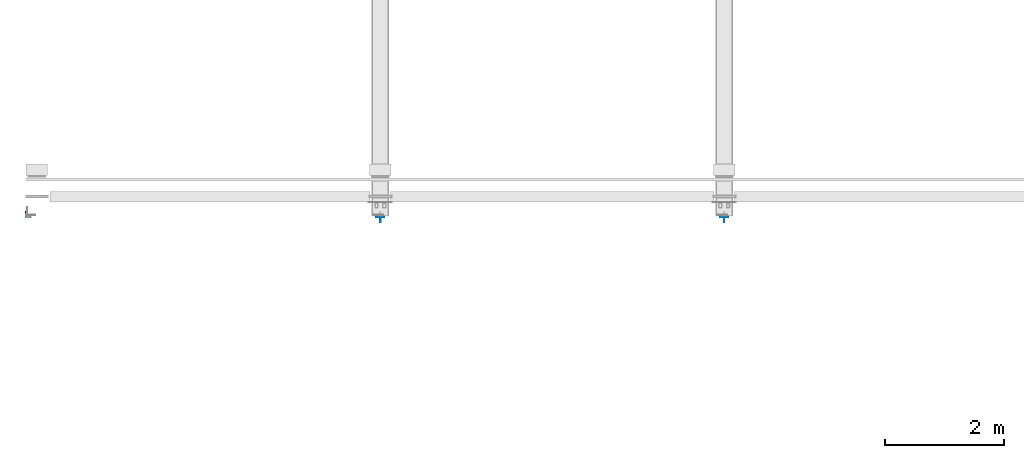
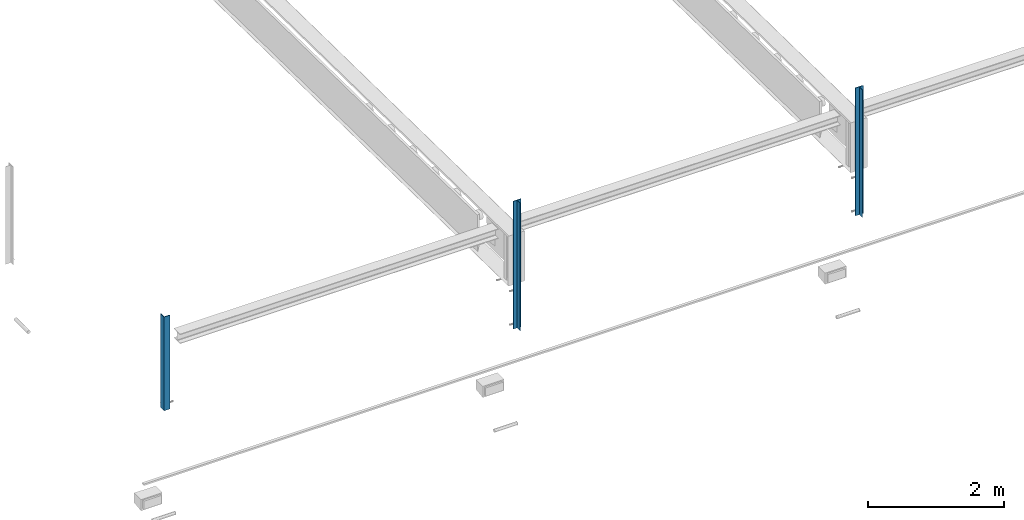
# One storey, part 123 of 186: 3 beams.
"""IFC4X3_ADD2 building model written with IfcOpenShell, lengths in millimetres."""

from ifc_helpers import new_model, si_unit, direction, frame, origin_with_axes, place, context, subcontext, project, spatial, polygons, element, save


model = new_model("IFC4X3_ADD2")

# Units and contexts
model_context = context("Model", 3, precision=1e-05, world=origin_with_axes(), true_north=direction((0.0, 1.0)))
body_context = subcontext(model_context, "Body", "Model", "MODEL_VIEW")
ifc_project = project(units=[si_unit("LENGTHUNIT", "METRE", prefix="MILLI"), si_unit("AREAUNIT", "SQUARE_METRE"), si_unit("VOLUMEUNIT", "CUBIC_METRE"), si_unit("PLANEANGLEUNIT", "RADIAN"), si_unit("TIMEUNIT", "SECOND"), si_unit("MASSUNIT", "GRAM")], contexts=[model_context])

# Site, building, storey
site_placement = place(None, origin_with_axes())
site = spatial("IfcSite", under=ifc_project, at=site_placement, Name="Site", CompositionType="ELEMENT")
building_placement = place(site_placement, origin_with_axes())
building = spatial("IfcBuilding", under=site, at=building_placement, Name="IFC Building Story")
storey_placement = place(building_placement, frame((0.0, 0.0, 4370.0), z_axis=(0.0, 0.0, 1.0), x_axis=(1.0, 0.0, 0.0)))
storey = spatial("IfcBuildingStorey", under=building, at=storey_placement, Name="ETAGE 10 (1)", Elevation=4370.0)

# Beams
beam_1_placement = place(storey_placement, frame((0.0, 0.0, -4370.0), z_axis=(0.0, 0.0, 1.0), x_axis=(1.0, 0.0, 0.0)))
element("IfcBeam", 1, at=beam_1_placement, inside=storey, Name="PS6", ObjectType="HALF_IPE270_100", context=body_context, shape_type="Tessellation", body=[
    polygons([(10759.48863623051, -88.1000362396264, 9980.0), (10759.48863623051, -88.1000362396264, 7690.0), (10759.48863623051, 1.699963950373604, 7690.0), (10759.48863623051, 1.699963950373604, 9980.0), (10823.6886362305, 1.699963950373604, 7690.0), (10823.6886362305, 1.699963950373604, 9980.0), (10823.6886362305, 11.8999637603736, 7690.0), (10823.6886362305, 11.8999637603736, 9980.0), (10688.6886362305, 11.8999637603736, 7690.0), (10688.6886362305, 11.8999637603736, 9980.0), (10688.6886362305, 1.699963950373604, 7690.0), (10688.6886362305, 1.699963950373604, 9980.0), (10752.8886362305, 1.699963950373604, 7690.0), (10752.8886362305, 1.699963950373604, 9980.0), (10752.8886362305, -88.1000362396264, 7690.0), (10752.8886362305, -88.1000362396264, 9980.0)], [[[1, 2, 3, 4]], [[4, 3, 5, 6]], [[6, 5, 7, 8]], [[8, 7, 9, 10]], [[10, 9, 11, 12]], [[12, 11, 13, 14]], [[14, 13, 15, 16]], [[16, 15, 2, 1]], [[4, 6, 8]], [[4, 8, 14]], [[14, 16, 1]], [[14, 1, 4]], [[8, 10, 14]], [[10, 12, 14]], [[13, 11, 9]], [[13, 9, 3]], [[3, 2, 15]], [[3, 15, 13]], [[9, 7, 3]], [[7, 5, 3]]]),
])
beam_2_placement = place(storey_placement, frame((0.0, 0.0, -4370.0), z_axis=(0.0, 0.0, 1.0), x_axis=(1.0, 0.0, 0.0)))
element("IfcBeam", 2, at=beam_2_placement, inside=storey, Name="PS6", ObjectType="HALF_IPE270_100", context=body_context, shape_type="Tessellation", body=[
    polygons([(16559.48882696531, -88.1000362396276, 9980.0), (16559.48882696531, -88.1000362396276, 7690.0), (16559.48882696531, 1.699963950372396, 7690.0), (16559.48882696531, 1.699963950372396, 9980.0), (16623.6888269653, 1.699963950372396, 7690.0), (16623.6888269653, 1.699963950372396, 9980.0), (16623.6888269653, 11.89996376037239, 7690.0), (16623.6888269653, 11.89996376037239, 9980.0), (16488.6888269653, 11.89996376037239, 7690.0), (16488.6888269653, 11.89996376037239, 9980.0), (16488.6888269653, 1.699963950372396, 7690.0), (16488.6888269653, 1.699963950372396, 9980.0), (16552.8888269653, 1.699963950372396, 7690.0), (16552.8888269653, 1.699963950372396, 9980.0), (16552.8888269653, -88.1000362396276, 7690.0), (16552.8888269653, -88.1000362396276, 9980.0)], [[[1, 2, 3, 4]], [[4, 3, 5, 6]], [[6, 5, 7, 8]], [[8, 7, 9, 10]], [[10, 9, 11, 12]], [[12, 11, 13, 14]], [[14, 13, 15, 16]], [[16, 15, 2, 1]], [[4, 6, 8]], [[4, 8, 14]], [[14, 16, 1]], [[14, 1, 4]], [[8, 10, 14]], [[10, 12, 14]], [[13, 11, 9]], [[13, 9, 3]], [[3, 2, 15]], [[3, 15, 13]], [[9, 7, 3]], [[7, 5, 3]]]),
])
beam_3_placement = place(storey_placement, frame((0.0, 0.0, -4370.0), z_axis=(0.0, 0.0, 1.0), x_axis=(1.0, 0.0, 0.0)))
element("IfcBeam", 3, at=beam_3_placement, inside=storey, Name="PS3", ObjectType="L100/100/10", context=body_context, shape_type="Tessellation", body=[
    polygons([(4768.18934822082, 1.99996376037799, 9980.0), (4768.18934822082, 1.99996376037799, 8300.0), (4868.18934822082, 1.99996376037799, 8300.0), (4868.18934822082, 1.99996376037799, 9980.0), (4868.18934822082, 11.99996376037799, 8300.0), (4868.18934822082, 11.99996376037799, 9980.0), (4778.18934822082, 11.99996376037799, 8300.0), (4778.18934822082, 11.99996376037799, 9980.0), (4778.18934822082, 101.999963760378, 8300.0), (4778.18934822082, 101.999963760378, 9980.0), (4768.18934822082, 101.999963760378, 8300.0), (4768.18934822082, 101.999963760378, 9980.0)], [[[1, 2, 3, 4]], [[4, 3, 5, 6]], [[6, 5, 7, 8]], [[8, 7, 9, 10]], [[10, 9, 11, 12]], [[12, 11, 2, 1]], [[8, 10, 12]], [[8, 12, 1]], [[1, 4, 6]], [[1, 6, 8]], [[7, 5, 3]], [[7, 3, 2]], [[2, 11, 9]], [[2, 9, 7]]]),
])

save(model, "model.ifc")
